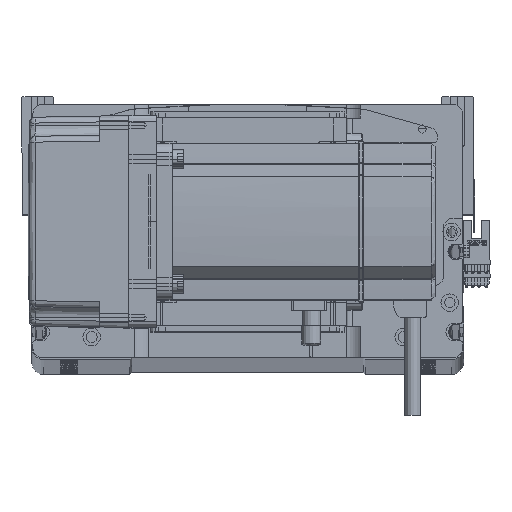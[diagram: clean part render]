
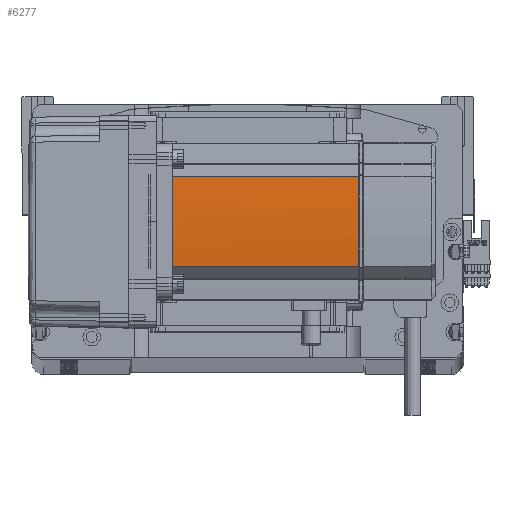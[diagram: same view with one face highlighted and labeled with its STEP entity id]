
A CAD part, top view. The second image highlights one B-rep face of the part: STEP entity #6277.
In plain terms, the highlighted cylindrical face has radius 270 mm (diameter 540 mm), a partial arc.
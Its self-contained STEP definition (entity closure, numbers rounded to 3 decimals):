
#1592 = VECTOR ( 'NONE', #9763, 1000. ) ;
#1704 = AXIS2_PLACEMENT_3D ( 'NONE', #4638, #23901, #26261 ) ;
#3890 = DIRECTION ( 'NONE',  ( -1., 0., 0. ) ) ;
#3959 = ORIENTED_EDGE ( 'NONE', *, *, #40980, .T. ) ;
#4638 = CARTESIAN_POINT ( 'NONE',  ( -230., 0., 134. ) ) ;
#5681 = EDGE_CURVE ( 'NONE', #6035, #23197, #23475, .T. ) ;
#6035 = VERTEX_POINT ( 'NONE', #59146 ) ;
#6051 = CARTESIAN_POINT ( 'NONE',  ( 40., 0.042, 134. ) ) ;
#6264 = CARTESIAN_POINT ( 'NONE',  ( 40., -0.127, 134. ) ) ;
#6277 = ADVANCED_FACE ( 'NONE', ( #47806 ), #36354, .T. ) ;
#6828 = ORIENTED_EDGE ( 'NONE', *, *, #52003, .F. ) ;
#8116 = DIRECTION ( 'NONE',  ( 0., 0., -1. ) ) ;
#8346 = DIRECTION ( 'NONE',  ( 0., 0., 1. ) ) ;
#9204 = ORIENTED_EDGE ( 'NONE', *, *, #58124, .T. ) ;
#9284 = VECTOR ( 'NONE', #8346, 1000. ) ;
#9623 = CARTESIAN_POINT ( 'NONE',  ( -230., 0., 134. ) ) ;
#9763 = DIRECTION ( 'NONE',  ( 0., 0., -1. ) ) ;
#9922 = ORIENTED_EDGE ( 'NONE', *, *, #5681, .F. ) ;
#10625 = LINE ( 'NONE', #58026, #1592 ) ;
#13684 = DIRECTION ( 'NONE',  ( 0., 0., -1. ) ) ;
#19683 = ORIENTED_EDGE ( 'NONE', *, *, #30002, .T. ) ;
#22685 = DIRECTION ( 'NONE',  ( 0., 0., -1. ) ) ;
#22957 = CARTESIAN_POINT ( 'NONE',  ( 39.042, 22.724, 58. ) ) ;
#23197 = VERTEX_POINT ( 'NONE', #47301 ) ;
#23442 = DIRECTION ( 'NONE',  ( -1., 0., 0. ) ) ;
#23475 = CIRCLE ( 'NONE', #28106, 270. ) ;
#23901 = DIRECTION ( 'NONE',  ( 0., 0., -1. ) ) ;
#24754 = VERTEX_POINT ( 'NONE', #58140 ) ;
#26261 = DIRECTION ( 'NONE',  ( -1., 0., 0. ) ) ;
#27373 = DIRECTION ( 'NONE',  ( -1., 0., 0. ) ) ;
#28106 = AXIS2_PLACEMENT_3D ( 'NONE', #51179, #22685, #27373 ) ;
#30002 = EDGE_CURVE ( 'NONE', #24754, #23197, #10625, .T. ) ;
#31538 = CIRCLE ( 'NONE', #46333, 270. ) ;
#35365 = CARTESIAN_POINT ( 'NONE',  ( 39.042, 22.724, 134. ) ) ;
#35530 = CIRCLE ( 'NONE', #1704, 270. ) ;
#36354 = CYLINDRICAL_SURFACE ( 'NONE', #42388, 270. ) ;
#37243 = B_SPLINE_CURVE_WITH_KNOTS ( 'NONE', 3,
 ( #6264, #44728, #6051, #59155 ),
 .UNSPECIFIED., .F., .F.,
 ( 4, 4 ),
 ( 0., 1. ),
 .UNSPECIFIED. ) ;
#37564 = VERTEX_POINT ( 'NONE', #35365 ) ;
#37848 = CARTESIAN_POINT ( 'NONE',  ( -230., 0., 58. ) ) ;
#39980 = CARTESIAN_POINT ( 'NONE',  ( 40., 0.127, 134. ) ) ;
#40980 = EDGE_CURVE ( 'NONE', #37564, #57674, #31538, .T. ) ;
#41278 = LINE ( 'NONE', #22957, #9284 ) ;
#42388 = AXIS2_PLACEMENT_3D ( 'NONE', #37848, #8116, #3890 ) ;
#44728 = CARTESIAN_POINT ( 'NONE',  ( 40., -0.042, 134. ) ) ;
#45959 = CARTESIAN_POINT ( 'NONE',  ( 40., -0.127, 134. ) ) ;
#46333 = AXIS2_PLACEMENT_3D ( 'NONE', #9623, #13684, #23442 ) ;
#47099 = EDGE_LOOP ( 'NONE', ( #19683, #9922, #61335, #3959, #6828, #9204 ) ) ;
#47301 = CARTESIAN_POINT ( 'NONE',  ( 39.042, -22.724, 39. ) ) ;
#47806 = FACE_OUTER_BOUND ( 'NONE', #47099, .T. ) ;
#50215 = EDGE_CURVE ( 'NONE', #6035, #37564, #41278, .T. ) ;
#51179 = CARTESIAN_POINT ( 'NONE',  ( -230., 0., 39. ) ) ;
#52003 = EDGE_CURVE ( 'NONE', #57361, #57674, #37243, .T. ) ;
#57361 = VERTEX_POINT ( 'NONE', #45959 ) ;
#57674 = VERTEX_POINT ( 'NONE', #39980 ) ;
#58026 = CARTESIAN_POINT ( 'NONE',  ( 39.042, -22.724, 58. ) ) ;
#58124 = EDGE_CURVE ( 'NONE', #57361, #24754, #35530, .T. ) ;
#58140 = CARTESIAN_POINT ( 'NONE',  ( 39.042, -22.724, 134. ) ) ;
#59146 = CARTESIAN_POINT ( 'NONE',  ( 39.042, 22.724, 39. ) ) ;
#59155 = CARTESIAN_POINT ( 'NONE',  ( 40., 0.127, 134. ) ) ;
#61335 = ORIENTED_EDGE ( 'NONE', *, *, #50215, .T. ) ;
